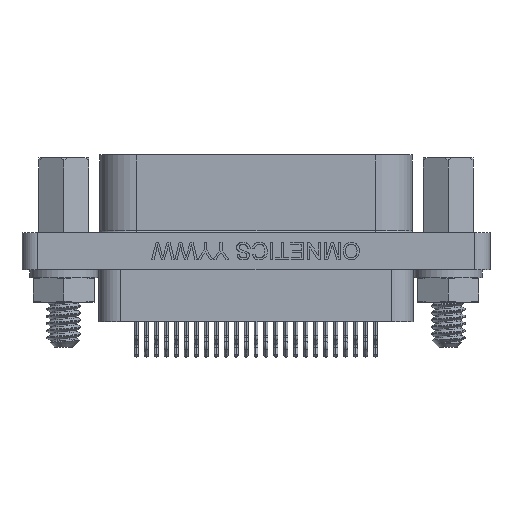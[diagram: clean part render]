
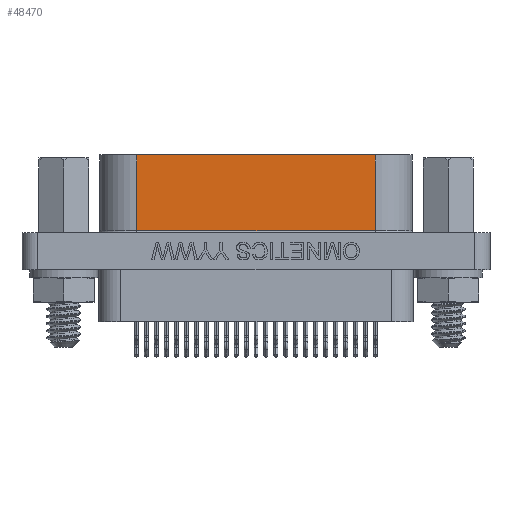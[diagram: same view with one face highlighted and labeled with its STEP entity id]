
A CAD part, front view. The second image highlights one B-rep face of the part: STEP entity #48470.
In plain terms, the highlighted planar face has unit normal (0, -1, 0).
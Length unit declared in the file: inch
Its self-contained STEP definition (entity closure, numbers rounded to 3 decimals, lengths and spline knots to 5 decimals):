
#1748 = VECTOR ( 'NONE', #42176, 39.37008 ) ;
#4097 = EDGE_CURVE ( 'NONE', #45645, #52623, #63713, .T. ) ;
#4457 = DIRECTION ( 'NONE',  ( 0., 0., -1. ) ) ;
#6236 = CARTESIAN_POINT ( 'NONE',  ( 0.3, -0.1176, 0.045 ) ) ;
#10500 = CARTESIAN_POINT ( 'NONE',  ( -0.3, -0.1176, 0.235 ) ) ;
#11665 = LINE ( 'NONE', #23184, #46666 ) ;
#12527 = EDGE_CURVE ( 'NONE', #54999, #39709, #54266, .T. ) ;
#15793 = CARTESIAN_POINT ( 'NONE',  ( -0.3, -0.1176, 0.045 ) ) ;
#16713 = EDGE_CURVE ( 'NONE', #39709, #52623, #11665, .T. ) ;
#22502 = DIRECTION ( 'NONE',  ( -1., 0., 0. ) ) ;
#23184 = CARTESIAN_POINT ( 'NONE',  ( 0.3, -0.1176, 0.235 ) ) ;
#26602 = ORIENTED_EDGE ( 'NONE', *, *, #16713, .F. ) ;
#27933 = ORIENTED_EDGE ( 'NONE', *, *, #12527, .F. ) ;
#30914 = ORIENTED_EDGE ( 'NONE', *, *, #53106, .T. ) ;
#39709 = VERTEX_POINT ( 'NONE', #51118 ) ;
#42176 = DIRECTION ( 'NONE',  ( 0., 0., -1. ) ) ;
#42442 = VECTOR ( 'NONE', #83726, 39.37008 ) ;
#45645 = VERTEX_POINT ( 'NONE', #15793 ) ;
#46666 = VECTOR ( 'NONE', #4457, 39.37008 ) ;
#48470 = ADVANCED_FACE ( 'NONE', ( #60180 ), #80596, .F. ) ;
#49826 = ORIENTED_EDGE ( 'NONE', *, *, #4097, .T. ) ;
#51118 = CARTESIAN_POINT ( 'NONE',  ( 0.3, -0.1176, 0.235 ) ) ;
#52623 = VERTEX_POINT ( 'NONE', #6236 ) ;
#52986 = VECTOR ( 'NONE', #79830, 39.37008 ) ;
#53106 = EDGE_CURVE ( 'NONE', #54999, #45645, #69885, .T. ) ;
#54266 = LINE ( 'NONE', #67071, #52986 ) ;
#54999 = VERTEX_POINT ( 'NONE', #76805 ) ;
#58014 = EDGE_LOOP ( 'NONE', ( #30914, #49826, #26602, #27933 ) ) ;
#58133 = AXIS2_PLACEMENT_3D ( 'NONE', #81009, #68651, #22502 ) ;
#60180 = FACE_OUTER_BOUND ( 'NONE', #58014, .T. ) ;
#62417 = CARTESIAN_POINT ( 'NONE',  ( 0.3, -0.1176, 0.045 ) ) ;
#63713 = LINE ( 'NONE', #62417, #42442 ) ;
#67071 = CARTESIAN_POINT ( 'NONE',  ( -0.5475, -0.1176, 0.235 ) ) ;
#68651 = DIRECTION ( 'NONE',  ( 0., 1., 0. ) ) ;
#69885 = LINE ( 'NONE', #10500, #1748 ) ;
#76805 = CARTESIAN_POINT ( 'NONE',  ( -0.3, -0.1176, 0.235 ) ) ;
#79830 = DIRECTION ( 'NONE',  ( 1., 0., 0. ) ) ;
#80596 = PLANE ( 'NONE',  #58133 ) ;
#81009 = CARTESIAN_POINT ( 'NONE',  ( -0.5475, -0.1176, 0.235 ) ) ;
#83726 = DIRECTION ( 'NONE',  ( 1., 0., 0. ) ) ;
